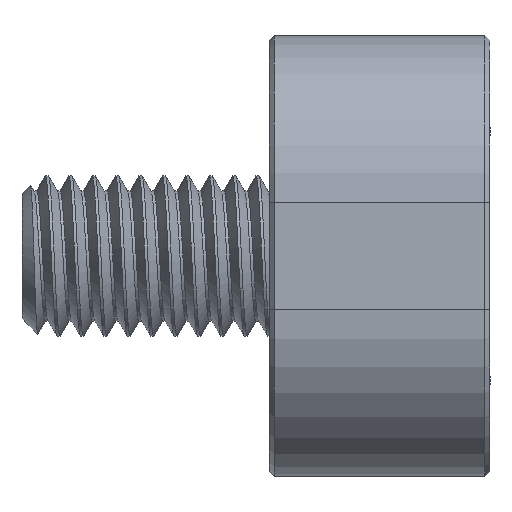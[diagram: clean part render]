
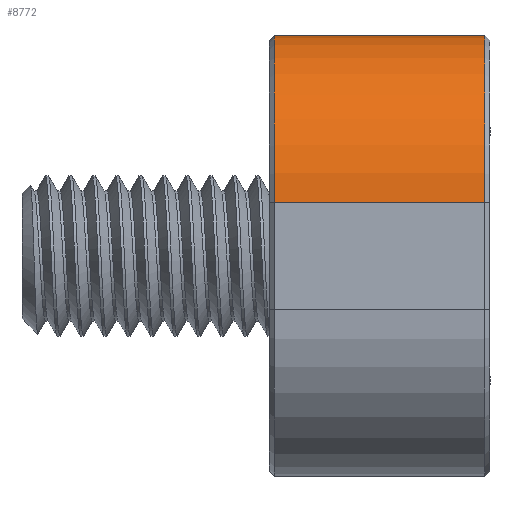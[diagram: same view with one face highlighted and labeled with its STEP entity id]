
A CAD part, left-side view. The second image highlights one B-rep face of the part: STEP entity #8772.
In plain terms, the highlighted cylindrical face has radius 12.499 mm (diameter 24.998 mm), a partial arc.
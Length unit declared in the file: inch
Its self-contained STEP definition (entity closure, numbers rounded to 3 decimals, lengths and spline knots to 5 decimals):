
#73 = DIRECTION ( 'NONE',  ( 0., 0., 1. ) ) ;
#182 = CYLINDRICAL_SURFACE ( 'NONE', #6578, 0.49208 ) ;
#209 = EDGE_CURVE ( 'NONE', #4254, #6589, #3072, .T. ) ;
#1196 = VERTEX_POINT ( 'NONE', #3918 ) ;
#1368 = CARTESIAN_POINT ( 'NONE',  ( 7.93119, 0.15752, 9.97493 ) ) ;
#1424 = VECTOR ( 'NONE', #3227, 39.37008 ) ;
#1701 = CARTESIAN_POINT ( 'NONE',  ( 8.42327, 0.15752, 10.52917 ) ) ;
#2241 = VECTOR ( 'NONE', #5665, 39.37008 ) ;
#2432 = CARTESIAN_POINT ( 'NONE',  ( 7.93119, 0.15752, 10.52917 ) ) ;
#2608 = EDGE_CURVE ( 'NONE', #1196, #4254, #7961, .T. ) ;
#2771 = CARTESIAN_POINT ( 'NONE',  ( 8.42327, 0.15752, 9.97493 ) ) ;
#3072 = CIRCLE ( 'NONE', #4837, 0.49208 ) ;
#3227 = DIRECTION ( 'NONE',  ( 0., 0., 1. ) ) ;
#3918 = CARTESIAN_POINT ( 'NONE',  ( 8.42327, 0.15752, 10.59501 ) ) ;
#4024 = AXIS2_PLACEMENT_3D ( 'NONE', #6035, #5309, #8537 ) ;
#4254 = VERTEX_POINT ( 'NONE', #2771 ) ;
#4337 = VERTEX_POINT ( 'NONE', #8480 ) ;
#4600 = DIRECTION ( 'NONE',  ( 0., 0., 1. ) ) ;
#4637 = EDGE_LOOP ( 'NONE', ( #8748, #5079, #6127, #5578 ) ) ;
#4837 = AXIS2_PLACEMENT_3D ( 'NONE', #1368, #4600, #6109 ) ;
#5079 = ORIENTED_EDGE ( 'NONE', *, *, #2608, .T. ) ;
#5309 = DIRECTION ( 'NONE',  ( 0., 0., 1. ) ) ;
#5578 = ORIENTED_EDGE ( 'NONE', *, *, #10118, .T. ) ;
#5624 = DIRECTION ( 'NONE',  ( 1., 0., 0. ) ) ;
#5665 = DIRECTION ( 'NONE',  ( 0., 0., -1. ) ) ;
#6035 = CARTESIAN_POINT ( 'NONE',  ( 7.93119, 0.15752, 10.59501 ) ) ;
#6109 = DIRECTION ( 'NONE',  ( 1., 0., 0. ) ) ;
#6127 = ORIENTED_EDGE ( 'NONE', *, *, #209, .T. ) ;
#6578 = AXIS2_PLACEMENT_3D ( 'NONE', #2432, #73, #5624 ) ;
#6589 = VERTEX_POINT ( 'NONE', #6626 ) ;
#6626 = CARTESIAN_POINT ( 'NONE',  ( 7.93119, 0.64961, 9.97493 ) ) ;
#6841 = LINE ( 'NONE', #9988, #1424 ) ;
#7624 = EDGE_CURVE ( 'NONE', #1196, #4337, #7755, .T. ) ;
#7755 = CIRCLE ( 'NONE', #4024, 0.49208 ) ;
#7824 = FACE_OUTER_BOUND ( 'NONE', #4637, .T. ) ;
#7961 = LINE ( 'NONE', #1701, #2241 ) ;
#8480 = CARTESIAN_POINT ( 'NONE',  ( 7.93119, 0.64961, 10.59501 ) ) ;
#8537 = DIRECTION ( 'NONE',  ( -0.707, -0.707, 0. ) ) ;
#8748 = ORIENTED_EDGE ( 'NONE', *, *, #7624, .F. ) ;
#8772 = ADVANCED_FACE ( 'NONE', ( #7824 ), #182, .T. ) ;
#9988 = CARTESIAN_POINT ( 'NONE',  ( 7.93119, 0.64961, 10.52917 ) ) ;
#10118 = EDGE_CURVE ( 'NONE', #6589, #4337, #6841, .T. ) ;
